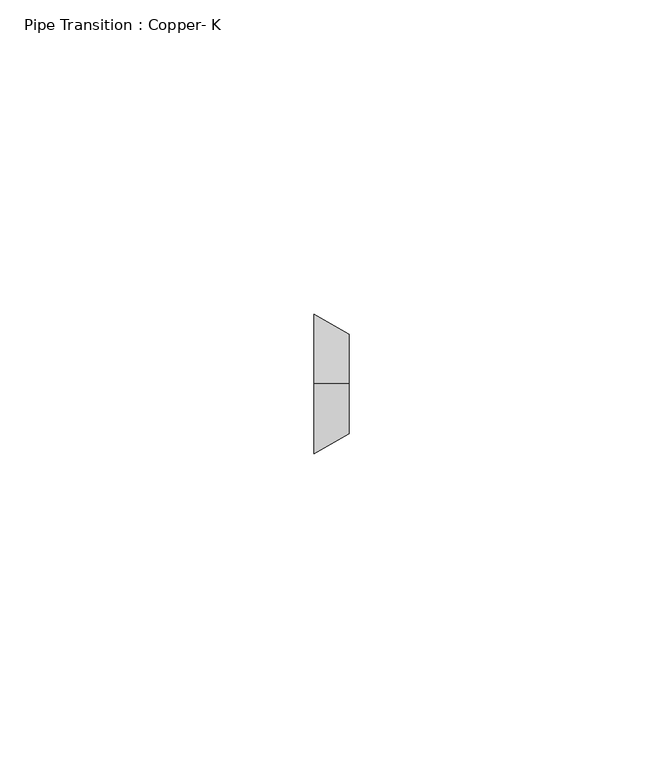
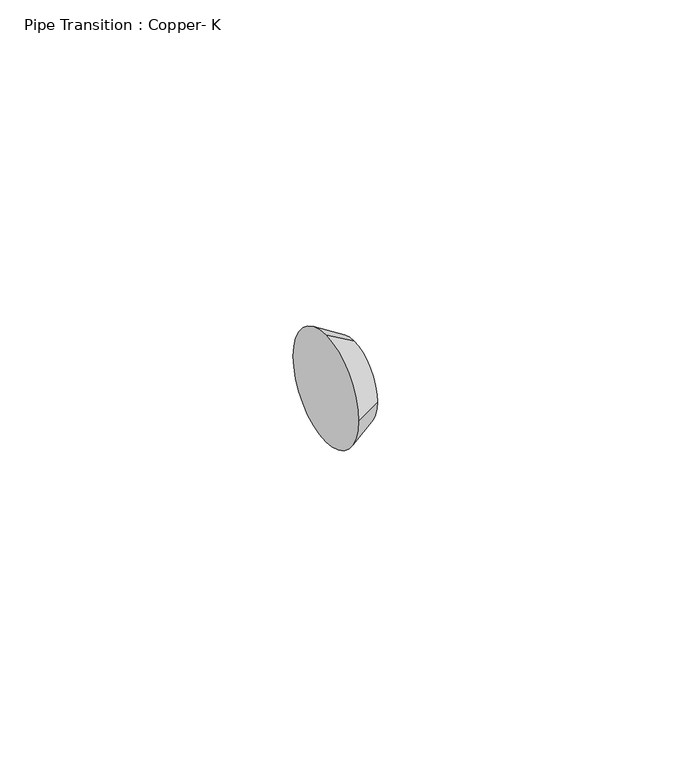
"""IFC4 building model written with IfcOpenShell, lengths in millimetres: pipe fitting geometry, Pipe Transition : Copper- K."""

from ifc_helpers import new_model, si_unit, frame, origin, place, context, project, spatial, circle_curve, source, transform, mapped, element, save
from ifc_brep_helpers import plane_surface, spline_surface, advanced_brep


def pipe_transition_copper_k_e545d381(model_context):
    return source(origin(), model_context, "Body", "AdvancedBrep", [
        advanced_brep(
        [(5.55625, 0.0, 7.9429767), (5.55625, -7.9375, 0.0054767), (5.55625, 0.0, -7.9320233), (5.55625, 7.9375, 0.0054767), (0.0, 0.0, 11.1125), (0.0, 11.1125, 0.0), (0.0, 0.0, -11.1125), (0.0, -11.1125, 0.0)],
        [
            (0, 1, circle_curve(frame((5.55625, 0.0, 0.0054767), z_axis=(1.0, 0.0, 0.0), x_axis=(0.0, 1.0, 0.0)), 7.9375)),
            (1, 2, circle_curve(frame((5.55625, 0.0, 0.0054767), z_axis=(1.0, 0.0, 0.0), x_axis=(0.0, 1.0, 0.0)), 7.9375)),
            (2, 3, circle_curve(frame((5.55625, 0.0, 0.0054767), z_axis=(1.0, 0.0, 0.0), x_axis=(0.0, 1.0, 0.0)), 7.9375)),
            (3, 0, circle_curve(frame((5.55625, 0.0, 0.0054767), z_axis=(1.0, 0.0, 0.0), x_axis=(0.0, 1.0, 0.0)), 7.9375)),
            (4, 5, circle_curve(frame((0.0, 0.0, 0.0), z_axis=(-1.0, 0.0, 0.0), x_axis=(0.0, 1.0, 0.0)), 11.1125)),
            (5, 6, circle_curve(frame((0.0, 0.0, 0.0), z_axis=(-1.0, 0.0, 0.0), x_axis=(0.0, 1.0, 0.0)), 11.1125)),
            (6, 7, circle_curve(frame((0.0, 0.0, 0.0), z_axis=(-1.0, 0.0, 0.0), x_axis=(0.0, 1.0, 0.0)), 11.1125)),
            (7, 4, circle_curve(frame((0.0, 0.0, 0.0), z_axis=(-1.0, 0.0, 0.0), x_axis=(0.0, 1.0, 0.0)), 11.1125)),
            (7, 1),
            (0, 4),
            (6, 2),
            (5, 3),
        ],
        [
            plane_surface(frame((5.55625, 0.0, 0.0054767), z_axis=(1.0, 0.0, 0.0), x_axis=(0.0, -1.0, 0.0))),
            plane_surface(frame((0.0, 0.0, 0.0), z_axis=(-1.0, 0.0, 0.0), x_axis=(0.0, -1.0, 0.0))),
            spline_surface(2, 1, [[(0.0, 0.0, 11.1125), (5.55625, 0.0, 7.9429767)], [(0.0, -11.1125, 11.1125), (5.55625, -7.9375, 7.9429767)], [(0.0, -11.1125, 0.0), (5.55625, -7.9375, 0.0054767)]], [3, 3], [2, 2], [0.0, 1.0], [0.0, 1.0], weights=[[1.0, 1.0], [0.7071067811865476, 0.7071067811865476], [1.0, 1.0]]),
            spline_surface(2, 1, [[(0.0, -11.1125, 0.0), (5.55625, -7.9375, 0.0054767)], [(0.0, -11.1125, -11.1125), (5.55625, -7.9375, -7.9320233)], [(0.0, 0.0, -11.1125), (5.55625, 0.0, -7.9320233)]], [3, 3], [2, 2], [0.0, 1.0], [0.0, 1.0], weights=[[1.0, 1.0], [0.7071067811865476, 0.7071067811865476], [1.0, 1.0]]),
            spline_surface(2, 1, [[(0.0, 0.0, -11.1125), (5.55625, 0.0, -7.9320233)], [(0.0, 11.1125, -11.1125), (5.55625, 7.9375, -7.9320233)], [(0.0, 11.1125, 0.0), (5.55625, 7.9375, 0.0054767)]], [3, 3], [2, 2], [0.0, 1.0], [0.0, 1.0], weights=[[1.0, 1.0], [0.7071067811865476, 0.7071067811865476], [1.0, 1.0]]),
            spline_surface(2, 1, [[(0.0, 11.1125, 0.0), (5.55625, 7.9375, 0.0054767)], [(0.0, 11.1125, 11.1125), (5.55625, 7.9375, 7.9429767)], [(0.0, 0.0, 11.1125), (5.55625, 0.0, 7.9429767)]], [3, 3], [2, 2], [0.0, 1.0], [0.0, 1.0], weights=[[1.0, 1.0], [0.7071067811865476, 0.7071067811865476], [1.0, 1.0]]),
        ],
        [
            (0, [[1, 2, 3, 4]]),
            (1, [[5, 6, 7, 8]]),
            (2, [[-8, 9, -1, 10]]),
            (3, [[-7, 11, -2, -9]]),
            (4, [[-6, 12, -3, -11]]),
            (5, [[-5, -10, -4, -12]]),
        ],
    ),
        advanced_brep(
        [(5.55625, 0.0, 7.9429767), (5.55625, -7.9375, 0.0054767), (5.55625, 0.0, -7.9320233), (5.55625, 7.9375, 0.0054767), (0.0, 0.0, 11.1125), (0.0, 11.1125, 0.0), (0.0, 0.0, -11.1125), (0.0, -11.1125, 0.0)],
        [
            (0, 1, circle_curve(frame((5.55625, 0.0, 0.0054767), z_axis=(1.0, 0.0, 0.0), x_axis=(0.0, 1.0, 0.0)), 7.9375)),
            (1, 2, circle_curve(frame((5.55625, 0.0, 0.0054767), z_axis=(1.0, 0.0, 0.0), x_axis=(0.0, 1.0, 0.0)), 7.9375)),
            (2, 3, circle_curve(frame((5.55625, 0.0, 0.0054767), z_axis=(1.0, 0.0, 0.0), x_axis=(0.0, 1.0, 0.0)), 7.9375)),
            (3, 0, circle_curve(frame((5.55625, 0.0, 0.0054767), z_axis=(1.0, 0.0, 0.0), x_axis=(0.0, 1.0, 0.0)), 7.9375)),
            (4, 5, circle_curve(frame((0.0, 0.0, 0.0), z_axis=(-1.0, 0.0, 0.0), x_axis=(0.0, 1.0, 0.0)), 11.1125)),
            (5, 6, circle_curve(frame((0.0, 0.0, 0.0), z_axis=(-1.0, 0.0, 0.0), x_axis=(0.0, 1.0, 0.0)), 11.1125)),
            (6, 7, circle_curve(frame((0.0, 0.0, 0.0), z_axis=(-1.0, 0.0, 0.0), x_axis=(0.0, 1.0, 0.0)), 11.1125)),
            (7, 4, circle_curve(frame((0.0, 0.0, 0.0), z_axis=(-1.0, 0.0, 0.0), x_axis=(0.0, 1.0, 0.0)), 11.1125)),
            (7, 1),
            (0, 4),
            (6, 2),
            (5, 3),
        ],
        [
            plane_surface(frame((5.55625, 0.0, 0.0054767), z_axis=(1.0, 0.0, 0.0), x_axis=(0.0, -1.0, 0.0))),
            plane_surface(frame((0.0, 0.0, 0.0), z_axis=(-1.0, 0.0, 0.0), x_axis=(0.0, -1.0, 0.0))),
            spline_surface(2, 1, [[(0.0, 0.0, 11.1125), (5.55625, 0.0, 7.9429767)], [(0.0, -11.1125, 11.1125), (5.55625, -7.9375, 7.9429767)], [(0.0, -11.1125, 0.0), (5.55625, -7.9375, 0.0054767)]], [3, 3], [2, 2], [0.0, 1.0], [0.0, 1.0], weights=[[1.0, 1.0], [0.7071067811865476, 0.7071067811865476], [1.0, 1.0]]),
            spline_surface(2, 1, [[(0.0, -11.1125, 0.0), (5.55625, -7.9375, 0.0054767)], [(0.0, -11.1125, -11.1125), (5.55625, -7.9375, -7.9320233)], [(0.0, 0.0, -11.1125), (5.55625, 0.0, -7.9320233)]], [3, 3], [2, 2], [0.0, 1.0], [0.0, 1.0], weights=[[1.0, 1.0], [0.7071067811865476, 0.7071067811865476], [1.0, 1.0]]),
            spline_surface(2, 1, [[(0.0, 0.0, -11.1125), (5.55625, 0.0, -7.9320233)], [(0.0, 11.1125, -11.1125), (5.55625, 7.9375, -7.9320233)], [(0.0, 11.1125, 0.0), (5.55625, 7.9375, 0.0054767)]], [3, 3], [2, 2], [0.0, 1.0], [0.0, 1.0], weights=[[1.0, 1.0], [0.7071067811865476, 0.7071067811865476], [1.0, 1.0]]),
            spline_surface(2, 1, [[(0.0, 11.1125, 0.0), (5.55625, 7.9375, 0.0054767)], [(0.0, 11.1125, 11.1125), (5.55625, 7.9375, 7.9429767)], [(0.0, 0.0, 11.1125), (5.55625, 0.0, 7.9429767)]], [3, 3], [2, 2], [0.0, 1.0], [0.0, 1.0], weights=[[1.0, 1.0], [0.7071067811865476, 0.7071067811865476], [1.0, 1.0]]),
        ],
        [
            (0, [[1, 2, 3, 4]]),
            (1, [[5, 6, 7, 8]]),
            (2, [[-8, 9, -1, 10]]),
            (3, [[-7, 11, -2, -9]]),
            (4, [[-6, 12, -3, -11]]),
            (5, [[-5, -10, -4, -12]]),
        ],
    ),
    ])


if __name__ == "__main__":
    model = new_model("IFC4")
    model_context = context("Model", 3, world=origin())
    ifc_project = project(units=[si_unit("LENGTHUNIT", "METRE", prefix="MILLI")], contexts=[model_context])
    site = spatial("IfcSite", under=ifc_project)
    building = spatial("IfcBuilding", under=site)
    placement = place(None, origin())
    pipe_transition_copper_k_shape = pipe_transition_copper_k_e545d381(model_context)
    element("IfcPipeFitting", 1, ObjectType="Pipe Transition : Copper- K", at=placement, inside=building, context=model_context, shape_type="MappedRepresentation", body=[
        mapped(pipe_transition_copper_k_shape, transform((0.0, 0.0, 0.0), x_axis=(1.0, 0.0, 0.0), y_axis=(0.0, 1.0, 0.0), z_axis=(0.0, 0.0, 1.0))),
    ])
    save(model, "model.ifc")
